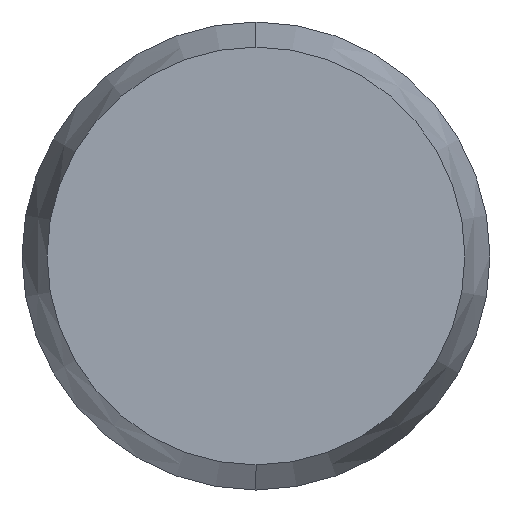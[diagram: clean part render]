
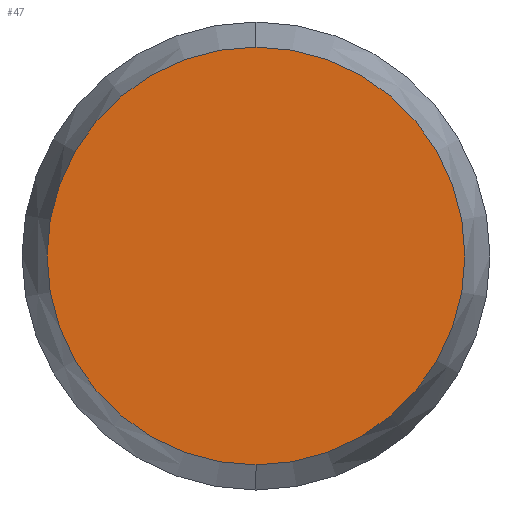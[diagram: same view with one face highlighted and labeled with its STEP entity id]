
A CAD part, left-side view. The second image highlights one B-rep face of the part: STEP entity #47.
In plain terms, the highlighted planar face has unit normal (-1, 0, 0).
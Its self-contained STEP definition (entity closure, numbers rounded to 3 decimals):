
#47 = ADVANCED_FACE ( 'NONE', ( #116 ), #109, .F. ) ;
#48 = ORIENTED_EDGE ( 'NONE', *, *, #93, .F. ) ;
#50 = EDGE_LOOP ( 'NONE', ( #51, #48 ) ) ;
#51 = ORIENTED_EDGE ( 'NONE', *, *, #83, .F. ) ;
#75 = VERTEX_POINT ( 'NONE', #147 ) ;
#83 = EDGE_CURVE ( 'NONE', #84, #75, #134, .T. ) ;
#84 = VERTEX_POINT ( 'NONE', #129 ) ;
#93 = EDGE_CURVE ( 'NONE', #75, #84, #172, .T. ) ;
#108 = AXIS2_PLACEMENT_3D ( 'NONE', #111, #151, #150 ) ;
#109 = PLANE ( 'NONE',  #108 ) ;
#111 = CARTESIAN_POINT ( 'NONE',  ( -1.5, 0., 0. ) ) ;
#116 = FACE_OUTER_BOUND ( 'NONE', #50, .T. ) ;
#129 = CARTESIAN_POINT ( 'NONE',  ( -1.5, 0., 0.67 ) ) ;
#130 = DIRECTION ( 'NONE',  ( 0., 0., -1. ) ) ;
#131 = DIRECTION ( 'NONE',  ( 1., 0., 0. ) ) ;
#132 = CARTESIAN_POINT ( 'NONE',  ( -1.5, 0., 0. ) ) ;
#133 = AXIS2_PLACEMENT_3D ( 'NONE', #132, #131, #130 ) ;
#134 = CIRCLE ( 'NONE', #133, 0.67 ) ;
#147 = CARTESIAN_POINT ( 'NONE',  ( -1.5, 0., -0.67 ) ) ;
#150 = DIRECTION ( 'NONE',  ( 0., 0., -1. ) ) ;
#151 = DIRECTION ( 'NONE',  ( 1., 0., 0. ) ) ;
#168 = DIRECTION ( 'NONE',  ( 0., 0., -1. ) ) ;
#169 = DIRECTION ( 'NONE',  ( 1., 0., 0. ) ) ;
#170 = CARTESIAN_POINT ( 'NONE',  ( -1.5, 0., 0. ) ) ;
#171 = AXIS2_PLACEMENT_3D ( 'NONE', #170, #169, #168 ) ;
#172 = CIRCLE ( 'NONE', #171, 0.67 ) ;
